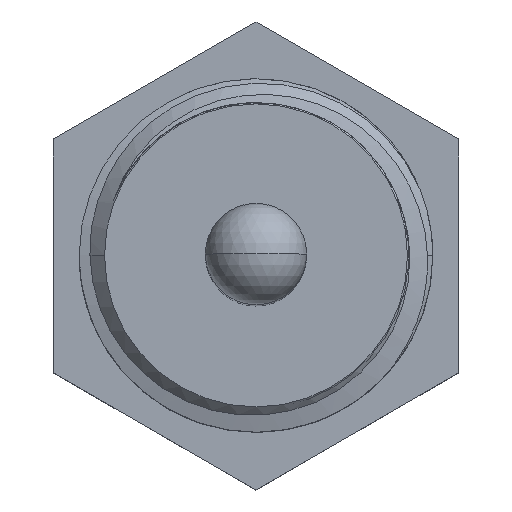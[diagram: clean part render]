
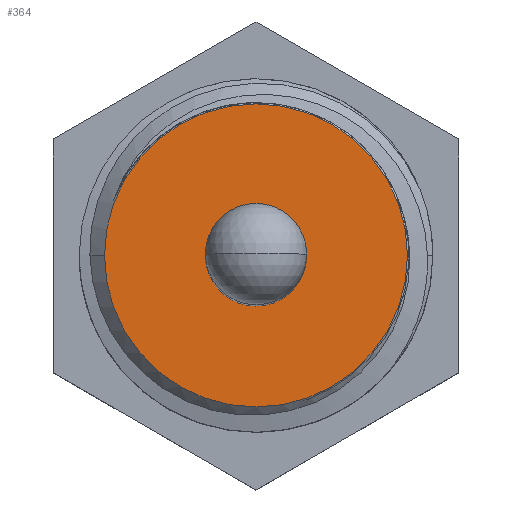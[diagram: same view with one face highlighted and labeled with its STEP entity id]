
A CAD part, top view. The second image highlights one B-rep face of the part: STEP entity #364.
In plain terms, the highlighted planar face has unit normal (0, 0, 1).
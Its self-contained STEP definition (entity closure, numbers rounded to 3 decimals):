
#37 = DIRECTION ( 'NONE',  ( 1., 0., 0. ) ) ;
#233 = CARTESIAN_POINT ( 'NONE',  ( -8.977, 0., 25. ) ) ;
#254 = CARTESIAN_POINT ( 'NONE',  ( 3., 0., 25. ) ) ;
#364 = ADVANCED_FACE ( 'NONE', ( #718, #794 ), #2699, .T. ) ;
#459 = CARTESIAN_POINT ( 'NONE',  ( 8.977, 0., 25. ) ) ;
#590 = CIRCLE ( 'NONE', #2067, 8.977 ) ;
#609 = CARTESIAN_POINT ( 'NONE',  ( 0., 0., 25. ) ) ;
#706 = DIRECTION ( 'NONE',  ( 0., 0., 1. ) ) ;
#718 = FACE_BOUND ( 'NONE', #770, .T. ) ;
#770 = EDGE_LOOP ( 'NONE', ( #2627, #2631 ) ) ;
#780 = DIRECTION ( 'NONE',  ( 0., 0., 1. ) ) ;
#794 = FACE_OUTER_BOUND ( 'NONE', #1497, .T. ) ;
#868 = CIRCLE ( 'NONE', #2966, 3. ) ;
#869 = VERTEX_POINT ( 'NONE', #233 ) ;
#885 = ORIENTED_EDGE ( 'NONE', *, *, #3163, .T. ) ;
#967 = DIRECTION ( 'NONE',  ( 1., 0., 0. ) ) ;
#1044 = CIRCLE ( 'NONE', #1957, 3. ) ;
#1080 = CARTESIAN_POINT ( 'NONE',  ( 0., 0., 25. ) ) ;
#1336 = DIRECTION ( 'NONE',  ( 1., 0., 0. ) ) ;
#1382 = AXIS2_PLACEMENT_3D ( 'NONE', #1080, #2837, #1336 ) ;
#1497 = EDGE_LOOP ( 'NONE', ( #885, #2897 ) ) ;
#1541 = DIRECTION ( 'NONE',  ( 0., 0., 1. ) ) ;
#1675 = DIRECTION ( 'NONE',  ( 0., 0., 1. ) ) ;
#1855 = AXIS2_PLACEMENT_3D ( 'NONE', #609, #1675, #967 ) ;
#1957 = AXIS2_PLACEMENT_3D ( 'NONE', #2283, #780, #2538 ) ;
#2067 = AXIS2_PLACEMENT_3D ( 'NONE', #2210, #706, #2464 ) ;
#2157 = VERTEX_POINT ( 'NONE', #2350 ) ;
#2210 = CARTESIAN_POINT ( 'NONE',  ( 0., 0., 25. ) ) ;
#2283 = CARTESIAN_POINT ( 'NONE',  ( 0., 0., 25. ) ) ;
#2350 = CARTESIAN_POINT ( 'NONE',  ( -3., 0., 25. ) ) ;
#2399 = VERTEX_POINT ( 'NONE', #254 ) ;
#2450 = CIRCLE ( 'NONE', #1382, 8.977 ) ;
#2464 = DIRECTION ( 'NONE',  ( 1., 0., 0. ) ) ;
#2486 = EDGE_CURVE ( 'NONE', #2399, #2157, #1044, .T. ) ;
#2492 = EDGE_CURVE ( 'NONE', #2157, #2399, #868, .T. ) ;
#2538 = DIRECTION ( 'NONE',  ( 1., 0., 0. ) ) ;
#2627 = ORIENTED_EDGE ( 'NONE', *, *, #2492, .F. ) ;
#2631 = ORIENTED_EDGE ( 'NONE', *, *, #2486, .F. ) ;
#2699 = PLANE ( 'NONE',  #1855 ) ;
#2837 = DIRECTION ( 'NONE',  ( 0., 0., 1. ) ) ;
#2841 = VERTEX_POINT ( 'NONE', #459 ) ;
#2897 = ORIENTED_EDGE ( 'NONE', *, *, #3079, .T. ) ;
#2966 = AXIS2_PLACEMENT_3D ( 'NONE', #3045, #1541, #37 ) ;
#3045 = CARTESIAN_POINT ( 'NONE',  ( 0., 0., 25. ) ) ;
#3079 = EDGE_CURVE ( 'NONE', #2841, #869, #590, .T. ) ;
#3163 = EDGE_CURVE ( 'NONE', #869, #2841, #2450, .T. ) ;
